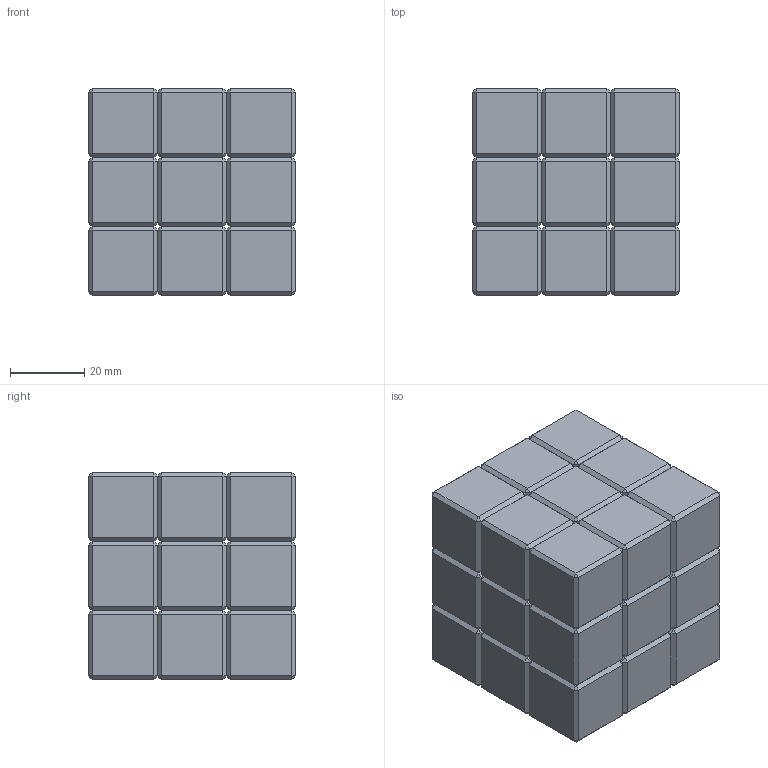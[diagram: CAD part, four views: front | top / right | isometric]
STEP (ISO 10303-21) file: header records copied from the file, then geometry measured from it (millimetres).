
FILE_DESCRIPTION(('CATIA V5 STEP Exchange'),'2;1');
FILE_NAME('C:\Users\user\Documents\Jakob\BAC - Arbeit 1\CAD Modell\CAD-Modell-Step files\Cube\Rubiks Cube.stp','2018-12-13T14:02:33+00:00',('none'),('none'),'Version 5-6 Release 2012','CATIA V5 STEP AP203','none');
FILE_SCHEMA(('CONFIG_CONTROL_DESIGN'));
Length unit declared in the file: millimetre
Products named in the file (1): Rubiks Cube
Bounding box: 55.8 x 55.8 x 55.8 mm (x, y, z)
Volume: 170871.9 mm3; surface area: 52434 mm2
Topology: 27 solids, 27 shells, 702 faces, 1296 edges, 648 vertices
Faces by surface type: plane 702
Entity records: 16086 total; most frequent: DIRECTION 2700, CARTESIAN_POINT 2647, ORIENTED_EDGE 2592, VECTOR 1296, EDGE_CURVE 1296, LINE 1296, AXIS2_PLACEMENT_3D 703, ADVANCED_FACE 702
